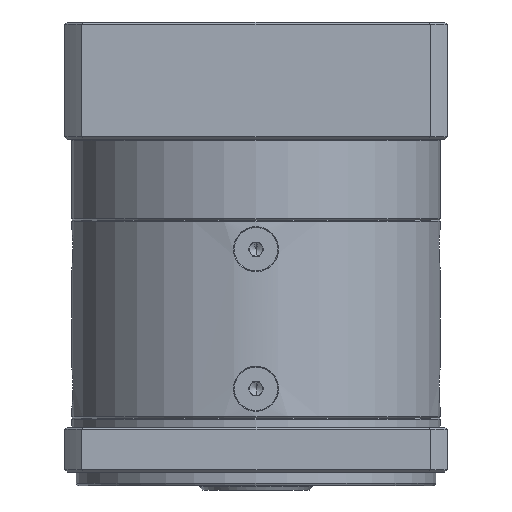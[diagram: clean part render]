
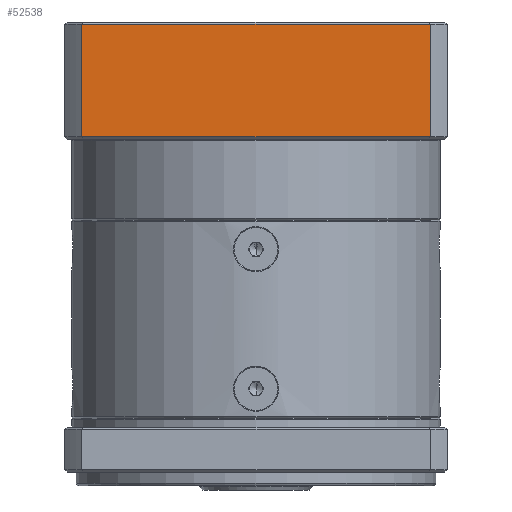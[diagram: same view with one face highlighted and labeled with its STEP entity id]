
A CAD part, front view. The second image highlights one B-rep face of the part: STEP entity #52538.
In plain terms, the highlighted planar face has unit normal (0, -1, 0).
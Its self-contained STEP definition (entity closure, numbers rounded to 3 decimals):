
#2359 = VERTEX_POINT ( 'NONE', #11072 ) ;
#2716 = VERTEX_POINT ( 'NONE', #3961 ) ;
#3269 = EDGE_CURVE ( 'NONE', #68936, #2359, #74853, .T. ) ;
#3961 = CARTESIAN_POINT ( 'NONE',  ( -84.764, -6.525, -2.285 ) ) ;
#5581 = CARTESIAN_POINT ( 'NONE',  ( -84.764, -6.525, -27.285 ) ) ;
#7209 = ORIENTED_EDGE ( 'NONE', *, *, #3269, .F. ) ;
#10156 = DIRECTION ( 'NONE',  ( 0., 1., 0. ) ) ;
#11072 = CARTESIAN_POINT ( 'NONE',  ( -7.304, -6.525, -27.285 ) ) ;
#13846 = DIRECTION ( 'NONE',  ( 0., 0., -1. ) ) ;
#17856 = VECTOR ( 'NONE', #49858, 1000. ) ;
#21881 = DIRECTION ( 'NONE',  ( 0., 0., 1. ) ) ;
#26143 = VECTOR ( 'NONE', #122284, 1000. ) ;
#29159 = PLANE ( 'NONE',  #31448 ) ;
#31448 = AXIS2_PLACEMENT_3D ( 'NONE', #39396, #10156, #126931 ) ;
#39396 = CARTESIAN_POINT ( 'NONE',  ( -7.304, -6.525, -1.785 ) ) ;
#39581 = CARTESIAN_POINT ( 'NONE',  ( -7.304, -6.525, -2.285 ) ) ;
#40622 = ORIENTED_EDGE ( 'NONE', *, *, #80603, .F. ) ;
#43911 = LINE ( 'NONE', #39581, #17856 ) ;
#43940 = LINE ( 'NONE', #99928, #119236 ) ;
#45751 = EDGE_CURVE ( 'NONE', #114628, #2716, #43940, .T. ) ;
#46075 = ORIENTED_EDGE ( 'NONE', *, *, #126119, .T. ) ;
#49858 = DIRECTION ( 'NONE',  ( 1., 0., 0. ) ) ;
#52538 = ADVANCED_FACE ( 'NONE', ( #83669 ), #29159, .F. ) ;
#68936 = VERTEX_POINT ( 'NONE', #108534 ) ;
#74853 = LINE ( 'NONE', #103576, #104081 ) ;
#76515 = EDGE_LOOP ( 'NONE', ( #46075, #7209, #40622, #115963 ) ) ;
#80603 = EDGE_CURVE ( 'NONE', #2716, #68936, #43911, .T. ) ;
#83669 = FACE_OUTER_BOUND ( 'NONE', #76515, .T. ) ;
#90520 = LINE ( 'NONE', #103854, #26143 ) ;
#99928 = CARTESIAN_POINT ( 'NONE',  ( -84.764, -6.525, -1.785 ) ) ;
#103576 = CARTESIAN_POINT ( 'NONE',  ( -7.304, -6.525, -1.785 ) ) ;
#103854 = CARTESIAN_POINT ( 'NONE',  ( -7.304, -6.525, -27.285 ) ) ;
#104081 = VECTOR ( 'NONE', #13846, 1000. ) ;
#108534 = CARTESIAN_POINT ( 'NONE',  ( -7.304, -6.525, -2.285 ) ) ;
#114628 = VERTEX_POINT ( 'NONE', #5581 ) ;
#115963 = ORIENTED_EDGE ( 'NONE', *, *, #45751, .F. ) ;
#119236 = VECTOR ( 'NONE', #21881, 1000. ) ;
#122284 = DIRECTION ( 'NONE',  ( 1., 0., 0. ) ) ;
#126119 = EDGE_CURVE ( 'NONE', #114628, #2359, #90520, .T. ) ;
#126931 = DIRECTION ( 'NONE',  ( -1., 0., 0. ) ) ;
